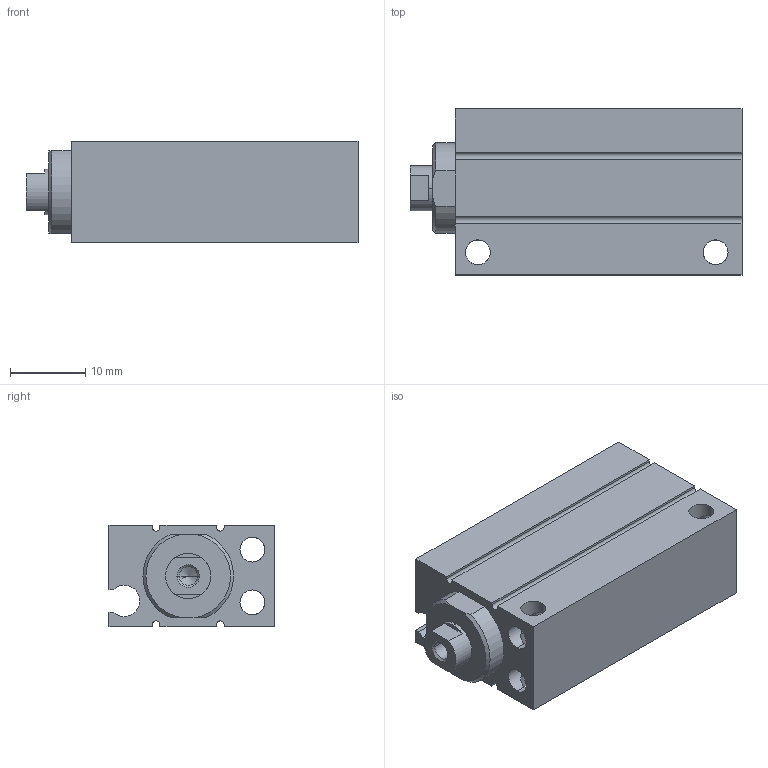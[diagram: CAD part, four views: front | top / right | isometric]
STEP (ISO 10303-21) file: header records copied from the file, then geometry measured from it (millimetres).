
FILE_DESCRIPTION (( 'STEP AP203' ), '1' );
FILE_NAME ('CLJB10-25.STEP', '2020-07-30T18:48:26', ( '' ), ( '' ), 'SwSTEP 2.0', 'SolidWorks 2019', '' );
FILE_SCHEMA (( 'CONFIG_CONTROL_DESIGN' ));
Length unit declared in the file: millimetre
Products named in the file (1): CLJB10-25
Bounding box: 44 x 22 x 13.5 mm (x, y, z)
Volume: 8951.4 mm3; surface area: 6684.8 mm2
Topology: 2 solids, 2 shells, 96 faces, 252 edges, 153 vertices
Faces by surface type: cylinder 49, plane 33, cone 14
Entity records: 2995 total; most frequent: CARTESIAN_POINT 604, ORIENTED_EDGE 492, DIRECTION 482, EDGE_CURVE 246, AXIS2_PLACEMENT_3D 175, VERTEX_POINT 153, LINE 132, VECTOR 132
